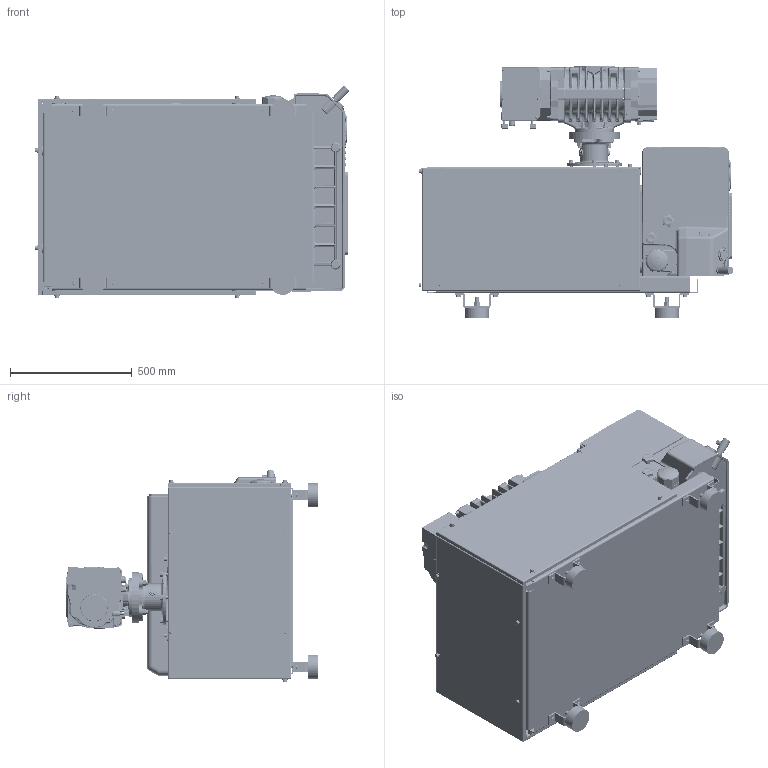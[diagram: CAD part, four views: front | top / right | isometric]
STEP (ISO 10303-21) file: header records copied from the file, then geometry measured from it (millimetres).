
FILE_DESCRIPTION((''),'2;1');
FILE_NAME('9516241V_A0','2014-06-10T',('L2200144'),('Copyright by Leybold GmbH'),'PRO/ENGINEER BY PARAMETRIC TECHNOLOGY CORPORATION, 2013320','PRO/ENGINEER BY PARAMETRIC TECHNOLOGY CORPORATION, 2013320','');
FILE_SCHEMA(('AUTOMOTIVE_DESIGN { 1 0 10303 214 1 1 1 1 }'));
Products named in the file (1): 9516241V_A0
Bounding box: 1292.52 x 1033 x 874.02 mm (x, y, z)
Surface area: 11242414.2 mm2 (no closed solid volume)
Topology: 0 solids, 385 shells, 5642 faces, 15596 edges, 9975 vertices
Faces by surface type: cylinder 1776, plane 1514, bspline 1376, cone 496, sphere 247, torus 231, revolution 2
Entity records: 428140 total; most frequent: CARTESIAN_POINT 263504, ORIENTED_EDGE 26848, DIRECTION 25004, EDGE_CURVE 15572, VERTEX_POINT 9975, AXIS2_PLACEMENT_3D 9414, VECTOR 6174, LINE 6174
